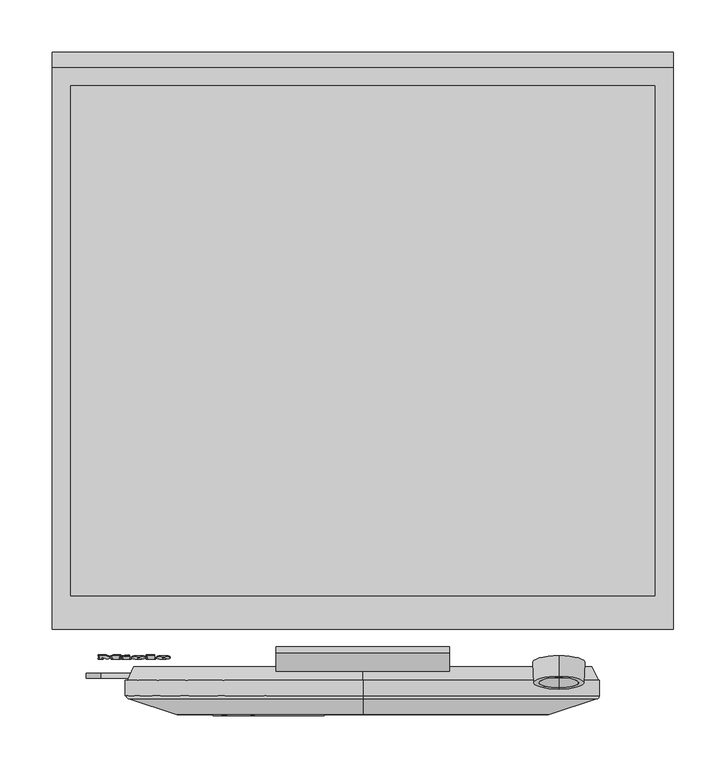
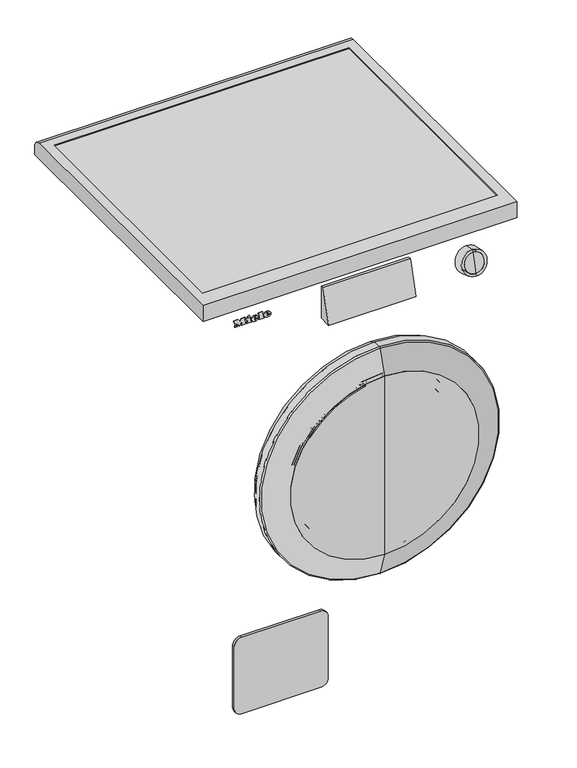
"""IFC4 building model written with IfcOpenShell, lengths in millimetres: proxy geometry, 12389510_NL_WEK375WPS_LW : 11EK3753_NL_12389510_WEK375WPS_LW."""

from ifc_helpers import new_model, si_unit, point, frame, frame_2d, origin, place, context, project, spatial, polyline, circle_curve, ellipse_curve, trimmed, segment, composite_curve, outline, extrude, source, transform, mapped, element, save
from ifc_brep_helpers import plane_surface, cylinder_surface, revolved_surface, extruded_surface, advanced_brep


def specialty_equipment_d4bfd174(model_context):
    return source(origin(), model_context, "Body", "SolidModel", [
        extrude(outline(polyline([(0.0, 0.0), (0.0, -1.8582), (-7.9458, -1.8582), (-11.286, 2.4168), (-14.6148, -1.8582), (-21.5574, -1.8582), (-21.5574, 0.0), (-20.1096, 0.0), (-20.1096, 7.6266), (-21.5574, 7.6266), (-21.5574, 9.5418), (-12.4602, 9.5418), (-12.4602, 7.6266), (-13.8624, 7.6266), (-13.8624, 2.6015777), (-8.7438, 9.5418), (-3.648, 2.7988753), (-3.648, 7.6266), (-5.016, 7.6266), (-5.016, 9.5418), (0.0, 9.5418), (0.0, 7.6266), (-1.3794, 7.6266), (-1.3794, 0.0), (0.0, 0.0)])), frame((-254.0, -578.2806922, 817.2814843), z_axis=(0.0, -0.9659258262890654, 0.2588190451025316), x_axis=(-1.0, 0.0, 0.0)), (0.0, 0.0, 1.0), 1.0),
        extrude(outline(polyline([(0.0, 0.0), (-0.0155448, -4.2740444), (-2.0506341, -4.2637237), (-2.0399312, 0.0), (0.0, 0.0)])), frame((-228.464, -577.9348294, 818.5722618), z_axis=(0.0, -0.9659258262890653, 0.2588190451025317), x_axis=(-0.4247202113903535, 0.23431526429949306, 0.8744764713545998)), (0.0, 0.0, 1.0), 1.0),
        extrude(outline(polyline([(-0.7030818, 3.4401063), (-3.9616202, -3.5057256), (-10.0405132, -0.6538993), (-10.6021632, -1.8511006), (-12.336041, -1.0376764), (-8.5158526, 7.1053568), (-6.7819748, 6.2919326), (-7.3581502, 5.0637692), (-3.1266627, 3.0786269), (-2.5504873, 4.3067903), (-0.7030818, 3.4401063)])), frame((-228.464, -577.9348294, 818.5722618), z_axis=(0.0, -0.9659258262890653, 0.2588190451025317), x_axis=(-0.4247202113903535, 0.23431526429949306, 0.8744764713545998)), (0.0, 0.0, 1.0), 1.0),
        extrude(outline(polyline([(0.0, 0.0), (0.0, -1.8582), (-7.8432, -1.8582), (-7.8432, 7.6266), (-9.2454, 7.6266), (-9.2454, 9.5418), (0.0, 9.5418), (0.0, 7.6266), (-1.368, 7.6266), (-1.368, 0.0), (0.0, 0.0)])), frame((-207.7388, -578.2806922, 817.2814843), z_axis=(0.0, -0.9659258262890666, 0.2588190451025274), x_axis=(-1.0, 0.0, 0.0)), (0.0, 0.0, 1.0), 1.0),
        advanced_brep(
        [(-216.0038, -581.029736, 810.8856165), (-216.0038, -580.7317318, 811.9977835), (-208.3772, -580.7317318, 811.9977835), (-221.6468, -580.7317318, 811.9977835), (-218.5118, -581.7290133, 808.2758781), (-208.571, -581.029736, 810.8856165), (-212.0138, -581.029736, 810.8856165), (-214.727, -581.3601962, 809.6523224), (-216.0038, -580.354063, 813.4072624), (-216.0038, -580.0324545, 814.6075219), (-214.0544, -580.0324545, 814.6075219), (-214.0544, -580.354063, 813.4072624), (-216.0038, -580.0638102, 810.6267974), (-214.727, -580.3942704, 809.3935033), (-212.0138, -580.0638102, 810.6267974), (-208.571, -580.0638102, 810.6267974), (-218.5118, -580.7630875, 808.017059), (-221.6468, -579.765806, 811.7389644), (-208.3772, -579.765806, 811.7389644), (-216.0038, -579.765806, 811.7389644), (-216.0038, -579.3881372, 813.1484434), (-214.0544, -579.3881372, 813.1484434), (-214.0544, -579.0665287, 814.3487028), (-216.0038, -579.0665287, 814.3487028)],
        [
            (0, 1),
            (1, 2),
            (2, 3, ellipse_curve(frame((-215.012, -580.7317318, 811.9977835), z_axis=(0.0, -0.9659258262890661, 0.2588190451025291), x_axis=(-1.0, 0.0, 0.0)), 6.6348, 5.4834)),
            (3, 4, circle_curve(frame((-217.2349378, -580.6314135, 812.3721763), z_axis=(0.0, -0.9659258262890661, 0.2588190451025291), x_axis=(0.0, -0.2588190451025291, -0.9659258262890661)), 4.4288556)),
            (4, 5, circle_curve(frame((-215.1448192, -579.8524717, 815.2792267), z_axis=(0.0, -0.9659258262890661, 0.2588190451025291), x_axis=(0.0, -0.2588190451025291, -0.9659258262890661)), 7.9940516)),
            (5, 6),
            (6, 7, circle_curve(frame((-214.1697412, -580.7553361, 811.909691), z_axis=(0.0, 0.9659258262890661, -0.2588190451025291), x_axis=(0.0, -0.2588190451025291, -0.9659258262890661)), 2.4025208)),
            (7, 0, circle_curve(frame((-214.727, -581.029736, 810.8856165), z_axis=(0.0, 0.9659258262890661, -0.2588190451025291), x_axis=(0.0, -0.2588190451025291, -0.9659258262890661)), 1.2768)),
            (8, 9),
            (9, 10, circle_curve(frame((-215.0291, -580.0324545, 814.6075219), z_axis=(0.0, 0.9659258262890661, -0.2588190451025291), x_axis=(0.0, -0.2588190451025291, -0.9659258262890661)), 0.9747)),
            (10, 11),
            (11, 8),
            (12, 13, circle_curve(frame((-214.727, -580.0638102, 810.6267974), z_axis=(0.0, -0.9659258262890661, 0.2588190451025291), x_axis=(0.0, -0.2588190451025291, -0.9659258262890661)), 1.2768)),
            (13, 14, circle_curve(frame((-214.1697412, -579.7894103, 811.650872), z_axis=(0.0, -0.9659258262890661, 0.2588190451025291), x_axis=(0.0, -0.2588190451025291, -0.9659258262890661)), 2.4025208)),
            (14, 15),
            (15, 16, circle_curve(frame((-215.1448192, -578.8865459, 815.0204076), z_axis=(0.0, 0.9659258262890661, -0.2588190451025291), x_axis=(0.0, -0.2588190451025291, -0.9659258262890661)), 7.9940516)),
            (16, 17, circle_curve(frame((-217.2349378, -579.6654877, 812.1133573), z_axis=(0.0, 0.9659258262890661, -0.2588190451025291), x_axis=(0.0, -0.2588190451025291, -0.9659258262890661)), 4.4288556)),
            (17, 18, ellipse_curve(frame((-215.012, -579.765806, 811.7389644), z_axis=(0.0, 0.9659258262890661, -0.2588190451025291), x_axis=(-1.0, 0.0, 0.0)), 6.6348, 5.4834)),
            (18, 19),
            (19, 12),
            (20, 21),
            (21, 22),
            (22, 23, circle_curve(frame((-215.0291, -579.0665287, 814.3487028), z_axis=(0.0, -0.9659258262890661, 0.2588190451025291), x_axis=(0.0, -0.2588190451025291, -0.9659258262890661)), 0.9747)),
            (23, 20),
            (0, 12),
            (19, 1),
            (18, 2),
            (5, 15),
            (14, 6),
            (17, 3),
            (13, 7),
            (16, 4),
            (8, 20),
            (23, 9),
            (22, 10),
            (21, 11),
        ],
        [
            plane_surface(frame((-216.0038, -580.7317318, 811.9977835), z_axis=(0.0, -0.9659258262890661, 0.2588190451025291), x_axis=(0.0, 0.2588190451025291, 0.9659258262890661))),
            plane_surface(frame((-216.0038, -579.765806, 811.7389644), z_axis=(0.0, 0.9659258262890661, -0.2588190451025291), x_axis=(0.0, -0.2588190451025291, -0.9659258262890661))),
            plane_surface(frame((-216.0038, -581.029736, 810.8856165), z_axis=(1.0, 0.0, 0.0), x_axis=(0.0, 0.9659258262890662, -0.25881904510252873))),
            plane_surface(frame((-216.0038, -580.7317318, 811.9977835), z_axis=(0.0, -0.25881904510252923, -0.9659258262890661), x_axis=(0.0, 0.9659258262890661, -0.25881904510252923))),
            plane_surface(frame((-208.571, -581.029736, 810.8856165), z_axis=(0.0, 0.25881904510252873, 0.9659258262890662), x_axis=(0.0, 0.9659258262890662, -0.25881904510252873))),
            extruded_surface(trimmed(ellipse_curve(frame((-215.012, -578.7998801, 811.4801454), z_axis=(0.0, -0.9659258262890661, 0.2588190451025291), x_axis=(-1.0, 0.0, 0.0)), 6.6348, 5.4834), [point((-208.3772, -578.7998801, 811.4801454))], [point((-221.6468, -578.7998801, 811.4801454))], True, "CARTESIAN"), (0.0, -0.965925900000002, 0.2588190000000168), 1.0000000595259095),
            revolved_surface(polyline([(-214.1697412, -580.4112283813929, 809.3302150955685), (-214.1697412, -581.3771542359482, 809.589034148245)]), (-214.1697412, -579.7894103, 811.650872), (0.0, 0.9659258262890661, -0.2588190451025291)),
            revolved_surface(polyline([(-214.727, -580.3942703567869, 809.393503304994), (-214.727, -581.3601962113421, 809.6523223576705)]), (-214.727, -580.0638102, 810.6267974), (0.0, 0.9659258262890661, -0.2588190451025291)),
            cylinder_surface(frame((-217.2349378, -579.6654877, 812.1133573), z_axis=(0.0, -0.9659258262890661, 0.2588190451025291), x_axis=(0.0, -0.2588190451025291, -0.9659258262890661)), 4.4288556),
            cylinder_surface(frame((-215.1448192, -578.8865459, 815.0204076), z_axis=(0.0, -0.9659258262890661, 0.2588190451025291), x_axis=(0.0, -0.2588190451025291, -0.9659258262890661)), 7.9940516),
            plane_surface(frame((-216.0038, -580.354063, 813.4072624), z_axis=(1.0, 0.0, 0.0), x_axis=(0.0, 0.9659258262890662, -0.25881904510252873))),
            revolved_surface(polyline([(-215.0291, -579.3187996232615, 813.407214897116), (-215.0291, -580.2847254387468, 813.6660339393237)]), (-215.0291, -579.0665287, 814.3487028), (0.0, 0.9659258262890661, -0.2588190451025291)),
            plane_surface(frame((-214.0544, -580.0324545, 814.6075219), z_axis=(-1.0, 0.0, 0.0), x_axis=(0.0, 0.9659258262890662, -0.25881904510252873))),
            plane_surface(frame((-214.0544, -580.354063, 813.4072624), z_axis=(0.0, 0.25881904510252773, 0.9659258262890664), x_axis=(0.0, 0.9659258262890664, -0.25881904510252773))),
        ],
        [
            (0, [[1, 2, 3, 4, 5, 6, 7, 8], [9, 10, 11, 12]]),
            (1, [[13, 14, 15, 16, 17, 18, 19, 20], [21, 22, 23, 24]]),
            (2, [[-1, 25, -20, 26]]),
            (3, [[-2, -26, -19, 27]]),
            (4, [[-6, 28, -15, 29]]),
            (5, [[-3, -27, -18, 30]]),
            (6, [[-7, -29, -14, 31]]),
            (7, [[-8, -31, -13, -25]]),
            (8, [[-4, -30, -17, 32]]),
            (9, [[-5, -32, -16, -28]]),
            (10, [[-9, 33, -24, 34]]),
            (11, [[-10, -34, -23, 35]]),
            (12, [[-11, -35, -22, 36]]),
            (13, [[-12, -36, -21, -33]]),
        ],
    ),
        advanced_brep(
        [(-192.212, -581.029736, 810.8856165), (-192.212, -580.7317318, 811.9977835), (-184.5854, -580.7317318, 811.9977835), (-197.855, -580.7317318, 811.9977835), (-194.72, -581.7290133, 808.2758781), (-184.7792, -581.029736, 810.8856165), (-188.222, -581.029736, 810.8856165), (-190.9352, -581.3601962, 809.6523224), (-192.212, -580.354063, 813.4072624), (-192.212, -580.0324545, 814.6075219), (-190.2626, -580.0324545, 814.6075219), (-190.2626, -580.354063, 813.4072624), (-192.212, -580.0638102, 810.6267974), (-190.9352, -580.3942704, 809.3935033), (-188.222, -580.0638102, 810.6267974), (-184.7792, -580.0638102, 810.6267974), (-194.72, -580.7630875, 808.017059), (-197.855, -579.765806, 811.7389644), (-184.5854, -579.765806, 811.7389644), (-192.212, -579.765806, 811.7389644), (-192.212, -579.3881372, 813.1484434), (-190.2626, -579.3881372, 813.1484434), (-190.2626, -579.0665287, 814.3487028), (-192.212, -579.0665287, 814.3487028)],
        [
            (0, 1),
            (1, 2),
            (2, 3, ellipse_curve(frame((-191.2202, -580.7317318, 811.9977835), z_axis=(0.0, -0.965925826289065, 0.25881904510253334), x_axis=(-1.0, 0.0, 0.0)), 6.6348, 5.4834)),
            (3, 4, circle_curve(frame((-193.4431378, -580.6314135, 812.3721763), z_axis=(0.0, -0.9659258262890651, 0.25881904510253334), x_axis=(0.0, -0.2588190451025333, -0.9659258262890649)), 4.4288556)),
            (4, 5, circle_curve(frame((-191.3530192, -579.8524717, 815.2792267), z_axis=(0.0, -0.9659258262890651, 0.25881904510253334), x_axis=(0.0, -0.2588190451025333, -0.9659258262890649)), 7.9940516)),
            (5, 6),
            (6, 7, circle_curve(frame((-190.3779412, -580.7553361, 811.909691), z_axis=(0.0, 0.9659258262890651, -0.25881904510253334), x_axis=(0.0, -0.2588190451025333, -0.9659258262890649)), 2.4025208)),
            (7, 0, circle_curve(frame((-190.9352, -581.029736, 810.8856165), z_axis=(0.0, 0.9659258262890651, -0.25881904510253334), x_axis=(0.0, -0.2588190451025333, -0.9659258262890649)), 1.2768)),
            (8, 9),
            (9, 10, circle_curve(frame((-191.2373, -580.0324545, 814.6075219), z_axis=(0.0, 0.9659258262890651, -0.25881904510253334), x_axis=(0.0, -0.2588190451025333, -0.9659258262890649)), 0.9747)),
            (10, 11),
            (11, 8),
            (12, 13, circle_curve(frame((-190.9352, -580.0638102, 810.6267974), z_axis=(0.0, -0.9659258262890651, 0.25881904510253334), x_axis=(0.0, -0.2588190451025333, -0.9659258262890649)), 1.2768)),
            (13, 14, circle_curve(frame((-190.3779412, -579.7894103, 811.650872), z_axis=(0.0, -0.9659258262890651, 0.25881904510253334), x_axis=(0.0, -0.2588190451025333, -0.9659258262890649)), 2.4025208)),
            (14, 15),
            (15, 16, circle_curve(frame((-191.3530192, -578.8865459, 815.0204076), z_axis=(0.0, 0.9659258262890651, -0.25881904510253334), x_axis=(0.0, -0.2588190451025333, -0.9659258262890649)), 7.9940516)),
            (16, 17, circle_curve(frame((-193.4431378, -579.6654877, 812.1133573), z_axis=(0.0, 0.9659258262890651, -0.25881904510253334), x_axis=(0.0, -0.2588190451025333, -0.9659258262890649)), 4.4288556)),
            (17, 18, ellipse_curve(frame((-191.2202, -579.765806, 811.7389644), z_axis=(0.0, 0.965925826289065, -0.25881904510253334), x_axis=(-1.0, 0.0, 0.0)), 6.6348, 5.4834)),
            (18, 19),
            (19, 12),
            (20, 21),
            (21, 22),
            (22, 23, circle_curve(frame((-191.2373, -579.0665287, 814.3487028), z_axis=(0.0, -0.9659258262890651, 0.25881904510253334), x_axis=(0.0, -0.2588190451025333, -0.9659258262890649)), 0.9747)),
            (23, 20),
            (0, 12),
            (19, 1),
            (18, 2),
            (5, 15),
            (14, 6),
            (17, 3),
            (13, 7),
            (16, 4),
            (8, 20),
            (23, 9),
            (22, 10),
            (21, 11),
        ],
        [
            plane_surface(frame((-192.212, -580.7317318, 811.9977835), z_axis=(0.0, -0.965925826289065, 0.25881904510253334), x_axis=(0.0, 0.25881904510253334, 0.965925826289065))),
            plane_surface(frame((-192.212, -579.765806, 811.7389644), z_axis=(0.0, 0.965925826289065, -0.25881904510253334), x_axis=(0.0, -0.25881904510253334, -0.965925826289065))),
            plane_surface(frame((-192.212, -581.029736, 810.8856165), z_axis=(1.0, 0.0, 0.0), x_axis=(0.0, 0.9659258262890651, -0.2588190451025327))),
            plane_surface(frame((-192.212, -580.7317318, 811.9977835), z_axis=(0.0, -0.25881904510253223, -0.9659258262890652), x_axis=(0.0, 0.9659258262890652, -0.25881904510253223))),
            plane_surface(frame((-184.7792, -581.029736, 810.8856165), z_axis=(0.0, 0.2588190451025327, 0.9659258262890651), x_axis=(0.0, 0.9659258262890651, -0.2588190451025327))),
            extruded_surface(trimmed(ellipse_curve(frame((-191.2202, -578.7998801, 811.4801454), z_axis=(0.0, -0.965925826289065, 0.25881904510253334), x_axis=(-1.0, 0.0, 0.0)), 6.6348, 5.4834), [point((-184.5854, -578.7998801, 811.4801454))], [point((-197.855, -578.7998801, 811.4801454))], True, "CARTESIAN"), (0.0, -0.965925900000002, 0.2588190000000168), 1.0000000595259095),
            revolved_surface(polyline([(-190.3779412, -580.4112283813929, 809.3302150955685), (-190.3779412, -581.3771542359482, 809.589034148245)]), (-190.3779412, -579.7894103, 811.650872), (0.0, 0.9659258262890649, -0.2588190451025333)),
            revolved_surface(polyline([(-190.9352, -580.3942703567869, 809.393503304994), (-190.9352, -581.3601962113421, 809.6523223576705)]), (-190.9352, -580.0638102, 810.6267974), (0.0, 0.9659258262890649, -0.2588190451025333)),
            cylinder_surface(frame((-193.4431378, -579.6654877, 812.1133573), z_axis=(0.0, -0.9659258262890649, 0.2588190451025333), x_axis=(0.0, -0.2588190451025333, -0.9659258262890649)), 4.4288556),
            cylinder_surface(frame((-191.3530192, -578.8865459, 815.0204076), z_axis=(0.0, -0.9659258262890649, 0.2588190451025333), x_axis=(0.0, -0.2588190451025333, -0.9659258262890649)), 7.9940516),
            plane_surface(frame((-192.212, -580.354063, 813.4072624), z_axis=(1.0, 0.0, 0.0), x_axis=(0.0, 0.9659258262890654, -0.25881904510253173))),
            revolved_surface(polyline([(-191.2373, -579.3187996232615, 813.407214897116), (-191.2373, -580.2847254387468, 813.6660339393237)]), (-191.2373, -579.0665287, 814.3487028), (0.0, 0.9659258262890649, -0.2588190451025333)),
            plane_surface(frame((-190.2626, -580.0324545, 814.6075219), z_axis=(-1.0, 0.0, 0.0), x_axis=(0.0, 0.9659258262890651, -0.2588190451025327))),
            plane_surface(frame((-190.2626, -580.354063, 813.4072624), z_axis=(0.0, 0.2588190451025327, 0.9659258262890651), x_axis=(0.0, 0.9659258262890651, -0.2588190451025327))),
        ],
        [
            (0, [[1, 2, 3, 4, 5, 6, 7, 8], [9, 10, 11, 12]]),
            (1, [[13, 14, 15, 16, 17, 18, 19, 20], [21, 22, 23, 24]]),
            (2, [[-1, 25, -20, 26]]),
            (3, [[-2, -26, -19, 27]]),
            (4, [[-6, 28, -15, 29]]),
            (5, [[-3, -27, -18, 30]]),
            (6, [[-7, -29, -14, 31]]),
            (7, [[-8, -31, -13, -25]]),
            (8, [[-4, -30, -17, 32]]),
            (9, [[-5, -32, -16, -28]]),
            (10, [[-9, 33, -24, 34]]),
            (11, [[-10, -34, -23, 35]]),
            (12, [[-11, -35, -22, 36]]),
            (13, [[-12, -36, -21, -33]]),
        ],
    ),
        extrude(outline(composite_curve([segment(trimmed(circle_curve(frame_2d((475.0, 0.0)), 179.0077488), [point((650.0572384, -37.3996979))], [point((581.8669772, -143.6078804))], False, "CARTESIAN"), True, "CONTINUOUS"), segment(polyline([(581.8669772, -143.6078804), (580.6729844, -142.0033925)]), True, "CONTINUOUS"), segment(trimmed(circle_curve(frame_2d((475.0, 0.0)), 177.0077488), [point((580.6729844, -142.0033925))], [point((648.1013763, -36.9818423))], True, "CARTESIAN"), True, "CONTINUOUS"), segment(polyline([(648.1013763, -36.9818423), (650.0572384, -37.3996979)]), True, "CONTINUOUS")], self_intersect=False)), frame((0.0, -636.0, 0.0), z_axis=(0.0, 1.0, 0.0), x_axis=(0.0, 0.0, 1.0)), (0.0, 0.0, 1.0), 1.0),
        advanced_brep(
        [(0.0, -610.8709778, 313.0), (0.0, -610.8709778, 637.0), (0.0, -592.0, 637.0), (0.0, -592.0, 313.0), (0.0, -628.93239, 652.7005461), (0.0, -628.93239, 297.2994539), (0.0, -630.9005671, 650.4364173), (0.0, -630.9005671, 299.5635827), (0.0, -592.0, 326.0), (0.0, -592.0, 624.0), (0.0, -589.0, 326.0), (0.0, -589.0, 624.0), (0.0, -589.0, 475.0), (0.0, -635.0, 296.0), (0.0, -635.0, 654.0), (0.0, -635.0, 475.0)],
        [
            (0, 1, circle_curve(frame((0.0, -610.8709778, 475.0), z_axis=(0.0, 1.0, 0.0), x_axis=(0.0, 0.0, 1.0)), 162.0)),
            (1, 2),
            (2, 3, circle_curve(frame((0.0, -592.0, 475.0), z_axis=(0.0, -1.0, 0.0), x_axis=(0.0, 0.0, 1.0)), 162.0)),
            (3, 0),
            (4, 5, circle_curve(frame((0.0, -628.93239, 475.0), z_axis=(0.0, 1.0, 0.0), x_axis=(0.0, 0.0, 1.0)), 177.7005461)),
            (5, 0),
            (0, 1, circle_curve(frame((0.0, -610.8709778, 475.0), z_axis=(0.0, -1.0, 0.0), x_axis=(0.0, 0.0, 1.0)), 162.0)),
            (1, 4),
            (6, 7, circle_curve(frame((0.0, -630.9005671, 475.0), z_axis=(0.0, 1.0, 0.0), x_axis=(0.0, 0.0, 1.0)), 175.4364173)),
            (7, 5),
            (4, 6),
            (2, 3, circle_curve(frame((0.0, -592.0, 475.0), z_axis=(0.0, 1.0, 0.0), x_axis=(0.0, 0.0, 1.0)), 162.0)),
            (3, 8),
            (8, 9, circle_curve(frame((0.0, -592.0, 475.0), z_axis=(0.0, -1.0, 0.0), x_axis=(0.0, 0.0, 1.0)), 149.0)),
            (9, 2),
            (10, 11, circle_curve(frame((0.0, -589.0, 475.0), z_axis=(0.0, 1.0, 0.0), x_axis=(0.0, 0.0, 1.0)), 149.0)),
            (11, 12),
            (12, 10),
            (8, 9, circle_curve(frame((0.0, -592.0, 475.0), z_axis=(0.0, 1.0, 0.0), x_axis=(0.0, 0.0, 1.0)), 149.0)),
            (9, 11),
            (10, 8),
            (13, 14, circle_curve(frame((0.0, -635.0, 475.0), z_axis=(0.0, 1.0, 0.0), x_axis=(0.0, 0.0, 1.0)), 179.0)),
            (14, 6),
            (6, 7, circle_curve(frame((0.0, -630.9005671, 475.0), z_axis=(0.0, -1.0, 0.0), x_axis=(0.0, 0.0, 1.0)), 175.4364173)),
            (7, 13),
            (14, 13, circle_curve(frame((0.0, -635.0, 475.0), z_axis=(0.0, 1.0, 0.0), x_axis=(0.0, 0.0, 1.0)), 179.0)),
            (15, 14),
            (13, 15),
            (11, 10, circle_curve(frame((0.0, -589.0, 475.0), z_axis=(0.0, 1.0, 0.0), x_axis=(0.0, 0.0, 1.0)), 149.0)),
            (5, 4, circle_curve(frame((0.0, -628.93239, 475.0), z_axis=(0.0, 1.0, 0.0), x_axis=(0.0, 0.0, 1.0)), 177.7005461)),
        ],
        [
            cylinder_surface(frame((0.0, -2342.7556811, 475.0), z_axis=(0.0, -1.0, 0.0), x_axis=(0.0, 0.0, 1.0)), 162.0),
            revolved_surface(polyline([(0.0, -610.8709778, 637.0), (0.0, -628.93239, 652.7005461)]), (0.0, -2342.7556811, 475.0), (0.0, -1.0, 0.0)),
            revolved_surface(polyline([(0.0, -628.93239, 652.7005461), (0.0, -630.9005671, 650.4364173)]), (0.0, -2342.7556811, 475.0), (0.0, -1.0, 0.0)),
            plane_surface(frame((0.0, -592.0, 475.0), z_axis=(0.0, 1.0, 0.0), x_axis=(0.0, 0.0, 1.0))),
            plane_surface(frame((0.0, -589.0, 475.0), z_axis=(0.0, 1.0, 0.0), x_axis=(0.0, 0.0, 1.0))),
            cylinder_surface(frame((0.0, -2342.7556811, 475.0), z_axis=(0.0, -1.0, 0.0), x_axis=(0.0, 0.0, 1.0)), 149.0),
            revolved_surface(polyline([(0.0, -630.9005671, 650.4364173), (0.0, -635.0, 654.0)]), (0.0, -2342.7556811, 475.0), (0.0, -1.0, 0.0)),
            plane_surface(frame((0.0, -635.0, 475.0), z_axis=(0.0, -1.0, 0.0), x_axis=(0.0, 0.0, 1.0))),
        ],
        [
            (0, [[1, 2, 3, 4]]),
            (1, [[5, 6, 7, 8]]),
            (2, [[9, 10, -5, 11]]),
            (3, [[12, 13, 14, 15]]),
            (4, [[16, 17, 18]]),
            (5, [[19, 20, -16, 21]]),
            (6, [[22, 23, 24, 25]]),
            (6, [[26, -25, -9, -23]]),
            (7, [[27, -22, 28]]),
            (7, [[-28, -26, -27]]),
            (4, [[29, -18, -17]]),
            (5, [[-14, -21, -29, -20]]),
            (3, [[-3, -15, -19, -13]]),
            (0, [[-7, -4, -12, -2]]),
            (1, [[30, -8, -1, -6]]),
            (2, [[-24, -11, -30, -10]]),
        ],
    ),
        advanced_brep(
        [(0.0, -602.0, 313.0), (0.0, -602.0, 637.0), (0.0, -602.0, 702.0), (0.0, -602.0, 248.0), (0.0, -592.0, 326.0), (0.0, -592.0, 624.0), (0.0, -592.0, 637.0), (0.0, -592.0, 313.0), (0.0, -589.0, 326.0), (0.0, -589.0, 624.0), (0.0, -589.0, 254.0), (0.0, -589.0, 696.0)],
        [
            (0, 1, circle_curve(frame((0.0, -602.0, 475.0), z_axis=(0.0, 1.0, 0.0), x_axis=(0.0, 0.0, 1.0)), 162.0)),
            (1, 2),
            (2, 3, circle_curve(frame((0.0, -602.0, 475.0), z_axis=(0.0, -1.0, 0.0), x_axis=(0.0, 0.0, 1.0)), 227.0)),
            (3, 0),
            (4, 5, circle_curve(frame((0.0, -592.0, 475.0), z_axis=(0.0, 1.0, 0.0), x_axis=(0.0, 0.0, 1.0)), 149.0)),
            (5, 6),
            (6, 7, circle_curve(frame((0.0, -592.0, 475.0), z_axis=(0.0, -1.0, 0.0), x_axis=(0.0, 0.0, 1.0)), 162.0)),
            (7, 4),
            (5, 4, circle_curve(frame((0.0, -592.0, 475.0), z_axis=(0.0, 1.0, 0.0), x_axis=(0.0, 0.0, 1.0)), 149.0)),
            (7, 6, circle_curve(frame((0.0, -592.0, 475.0), z_axis=(0.0, -1.0, 0.0), x_axis=(0.0, 0.0, 1.0)), 162.0)),
            (8, 9, circle_curve(frame((0.0, -589.0, 475.0), z_axis=(0.0, 1.0, 0.0), x_axis=(0.0, 0.0, 1.0)), 149.0)),
            (9, 5),
            (4, 8),
            (2, 3, circle_curve(frame((0.0, -602.0, 475.0), z_axis=(0.0, 1.0, 0.0), x_axis=(0.0, 0.0, 1.0)), 227.0)),
            (3, 10),
            (10, 11, circle_curve(frame((0.0, -589.0, 475.0), z_axis=(0.0, -1.0, 0.0), x_axis=(0.0, 0.0, 1.0)), 221.0)),
            (11, 2),
            (10, 11, circle_curve(frame((0.0, -589.0, 475.0), z_axis=(0.0, 1.0, 0.0), x_axis=(0.0, 0.0, 1.0)), 221.0)),
            (11, 9),
            (8, 10),
            (8, 9, circle_curve(frame((0.0, -589.0, 475.0), z_axis=(0.0, -1.0, 0.0), x_axis=(0.0, 0.0, 1.0)), 149.0)),
            (1, 0, circle_curve(frame((0.0, -602.0, 475.0), z_axis=(0.0, 1.0, 0.0), x_axis=(0.0, 0.0, 1.0)), 162.0)),
            (6, 1),
            (0, 7),
        ],
        [
            plane_surface(frame((0.0, -602.0, 475.0), z_axis=(0.0, -1.0, 0.0), x_axis=(0.0, 0.0, 1.0))),
            plane_surface(frame((0.0, -592.0, 475.0), z_axis=(0.0, -1.0, 0.0), x_axis=(0.0, 0.0, 1.0))),
            revolved_surface(polyline([(0.0, -592.0, 624.0), (0.0, -589.0, 624.0)]), (0.0, -2342.7556811, 475.0), (0.0, -1.0, 0.0)),
            revolved_surface(polyline([(0.0, -589.0, 696.0), (0.0, -602.0, 702.0)]), (0.0, -2342.7556811, 475.0), (0.0, -1.0, 0.0)),
            plane_surface(frame((0.0, -589.0, 475.0), z_axis=(0.0, 1.0, 0.0), x_axis=(0.0, 0.0, 1.0))),
            revolved_surface(polyline([(0.0, -602.0, 637.0), (0.0, -592.0, 637.0)]), (0.0, -2342.7556811, 475.0), (0.0, -1.0, 0.0)),
        ],
        [
            (0, [[1, 2, 3, 4]]),
            (1, [[5, 6, 7, 8]]),
            (1, [[9, -8, 10, -6]]),
            (2, [[11, 12, -5, 13]]),
            (3, [[14, 15, 16, 17]]),
            (4, [[18, 19, -11, 20]]),
            (4, [[-16, -20, 21, -19]]),
            (3, [[-3, -17, -18, -15]]),
            (0, [[22, -4, -14, -2]]),
            (5, [[-7, 23, -1, 24]]),
            (5, [[-10, -24, -22, -23]]),
            (2, [[-21, -13, -9, -12]]),
        ],
    ),
        advanced_brep(
        [(0.0, -602.0, 313.0), (0.0, -602.0, 637.0), (0.0, -610.8709778, 637.0), (0.0, -610.8709778, 313.0), (0.0, -602.0, 310.0), (0.0, -602.0, 640.0), (0.0, -609.7493238, 310.0), (0.0, -609.7493238, 640.0), (0.0, -628.93239, 297.2994539), (0.0, -628.93239, 652.7005461), (0.0, -626.9642129, 654.9646748), (0.0, -626.9642129, 295.0353252)],
        [
            (0, 1, circle_curve(frame((0.0, -602.0, 475.0), z_axis=(0.0, 1.0, 0.0), x_axis=(0.0, 0.0, 1.0)), 162.0)),
            (1, 2),
            (2, 3, circle_curve(frame((0.0, -610.8709778, 475.0), z_axis=(0.0, -1.0, 0.0), x_axis=(0.0, 0.0, 1.0)), 162.0)),
            (3, 0),
            (4, 5, circle_curve(frame((0.0, -602.0, 475.0), z_axis=(0.0, 1.0, 0.0), x_axis=(0.0, 0.0, 1.0)), 165.0)),
            (5, 1),
            (0, 4),
            (6, 7, circle_curve(frame((0.0, -609.7493238, 475.0), z_axis=(0.0, 1.0, 0.0), x_axis=(0.0, 0.0, 1.0)), 165.0)),
            (7, 5),
            (4, 6),
            (2, 3, circle_curve(frame((0.0, -610.8709778, 475.0), z_axis=(0.0, 1.0, 0.0), x_axis=(0.0, 0.0, 1.0)), 162.0)),
            (3, 8),
            (8, 9, circle_curve(frame((0.0, -628.93239, 475.0), z_axis=(0.0, -1.0, 0.0), x_axis=(0.0, 0.0, 1.0)), 177.7005461)),
            (9, 2),
            (8, 9, circle_curve(frame((0.0, -628.93239, 475.0), z_axis=(0.0, 1.0, 0.0), x_axis=(0.0, 0.0, 1.0)), 177.7005461)),
            (9, 10),
            (10, 11, circle_curve(frame((0.0, -626.9642129, 475.0), z_axis=(0.0, -1.0, 0.0), x_axis=(0.0, 0.0, 1.0)), 179.9646748)),
            (11, 8),
            (11, 10, circle_curve(frame((0.0, -626.9642129, 475.0), z_axis=(0.0, -1.0, 0.0), x_axis=(0.0, 0.0, 1.0)), 179.9646748)),
            (1, 0, circle_curve(frame((0.0, -602.0, 475.0), z_axis=(0.0, 1.0, 0.0), x_axis=(0.0, 0.0, 1.0)), 162.0)),
            (10, 7),
            (6, 11),
            (6, 7, circle_curve(frame((0.0, -609.7493238, 475.0), z_axis=(0.0, -1.0, 0.0), x_axis=(0.0, 0.0, 1.0)), 165.0)),
            (5, 4, circle_curve(frame((0.0, -602.0, 475.0), z_axis=(0.0, 1.0, 0.0), x_axis=(0.0, 0.0, 1.0)), 165.0)),
        ],
        [
            revolved_surface(polyline([(0.0, -610.8709778, 637.0), (0.0, -602.0, 637.0)]), (0.0, -2342.7556811, 475.0), (0.0, -1.0, 0.0)),
            plane_surface(frame((0.0, -602.0, 475.0), z_axis=(0.0, 1.0, 0.0), x_axis=(0.0, 0.0, 1.0))),
            cylinder_surface(frame((0.0, -2342.7556811, 475.0), z_axis=(0.0, -1.0, 0.0), x_axis=(0.0, 0.0, 1.0)), 165.0),
            revolved_surface(polyline([(0.0, -628.93239, 652.7005461), (0.0, -610.8709778, 637.0)]), (0.0, -2342.7556811, 475.0), (0.0, -1.0, 0.0)),
            revolved_surface(polyline([(0.0, -626.9642129, 654.9646748), (0.0, -628.93239, 652.7005461)]), (0.0, -2342.7556811, 475.0), (0.0, -1.0, 0.0)),
            revolved_surface(polyline([(0.0, -609.7493238, 640.0), (0.0, -626.9642129, 654.9646748)]), (0.0, -2342.7556811, 475.0), (0.0, -1.0, 0.0)),
        ],
        [
            (0, [[1, 2, 3, 4]]),
            (1, [[5, 6, -1, 7]]),
            (2, [[8, 9, -5, 10]]),
            (3, [[11, 12, 13, 14]]),
            (4, [[15, 16, 17, 18]]),
            (4, [[-13, -18, 19, -16]]),
            (3, [[-3, -14, -15, -12]]),
            (0, [[20, -4, -11, -2]]),
            (5, [[-17, 21, -8, 22]]),
            (5, [[-19, -22, 23, -21]]),
            (1, [[24, -7, -20, -6]]),
            (2, [[-23, -10, -24, -9]]),
        ],
    ),
        advanced_brep(
        [(0.0, -626.9642129, 295.0353252), (0.0, -626.9642129, 654.9646748), (0.0, -630.9005671, 650.4364173), (0.0, -630.9005671, 299.5635827), (0.0, -602.0, 247.0), (0.0, -602.0, 703.0), (0.0, -602.0, 640.0), (0.0, -602.0, 310.0), (0.0, -609.7493238, 640.0), (0.0, -609.7493238, 310.0), (0.0, -635.0, 296.0), (0.0, -635.0, 654.0), (0.0, -616.8993073, 247.0), (0.0, -616.8993073, 703.0), (0.0, -619.7524768, 249.072949), (0.0, -619.7524768, 700.927051)],
        [
            (0, 1, circle_curve(frame((0.0, -626.9642129, 475.0), z_axis=(0.0, 1.0, 0.0), x_axis=(0.0, 0.0, 1.0)), 179.9646748)),
            (1, 2),
            (2, 3, circle_curve(frame((0.0, -630.9005671, 475.0), z_axis=(0.0, -1.0, 0.0), x_axis=(0.0, 0.0, 1.0)), 175.4364173)),
            (3, 0),
            (4, 5, circle_curve(frame((0.0, -602.0, 475.0), z_axis=(0.0, 1.0, 0.0), x_axis=(0.0, 0.0, 1.0)), 228.0)),
            (5, 6),
            (6, 7, circle_curve(frame((0.0, -602.0, 475.0), z_axis=(0.0, -1.0, 0.0), x_axis=(0.0, 0.0, 1.0)), 165.0)),
            (7, 4),
            (6, 8),
            (8, 9, circle_curve(frame((0.0, -609.7493238, 475.0), z_axis=(0.0, -1.0, 0.0), x_axis=(0.0, 0.0, 1.0)), 165.0)),
            (9, 7),
            (2, 3, circle_curve(frame((0.0, -630.9005671, 475.0), z_axis=(0.0, 1.0, 0.0), x_axis=(0.0, 0.0, 1.0)), 175.4364173)),
            (3, 10),
            (10, 11, circle_curve(frame((0.0, -635.0, 475.0), z_axis=(0.0, -1.0, 0.0), x_axis=(0.0, 0.0, 1.0)), 179.0)),
            (11, 2),
            (12, 13, circle_curve(frame((0.0, -616.8993073, 475.0), z_axis=(0.0, 1.0, 0.0), x_axis=(0.0, 0.0, 1.0)), 228.0)),
            (13, 5),
            (4, 12),
            (13, 12, circle_curve(frame((0.0, -616.8993073, 475.0), z_axis=(0.0, 1.0, 0.0), x_axis=(0.0, 0.0, 1.0)), 228.0)),
            (4, 5, circle_curve(frame((0.0, -602.0, 475.0), z_axis=(0.0, -1.0, 0.0), x_axis=(0.0, 0.0, 1.0)), 228.0)),
            (14, 15, circle_curve(frame((0.0, -619.7524768, 475.0), z_axis=(0.0, 1.0, 0.0), x_axis=(0.0, 0.0, 1.0)), 225.927051)),
            (15, 13, circle_curve(frame((0.0, -616.8993073, 700.0), z_axis=(-1.0, 0.0, 0.0), x_axis=(0.0, 1.0, 0.0)), 3.0)),
            (12, 14, circle_curve(frame((0.0, -616.8993073, 250.0), z_axis=(-1.0, 0.0, 0.0), x_axis=(0.0, 1.0, 0.0)), 3.0)),
            (15, 14, circle_curve(frame((0.0, -619.7524768, 475.0), z_axis=(0.0, 1.0, 0.0), x_axis=(0.0, 0.0, 1.0)), 225.927051)),
            (10, 11, circle_curve(frame((0.0, -635.0, 475.0), z_axis=(0.0, 1.0, 0.0), x_axis=(0.0, 0.0, 1.0)), 179.0)),
            (11, 15),
            (14, 10),
            (1, 0, circle_curve(frame((0.0, -626.9642129, 475.0), z_axis=(0.0, 1.0, 0.0), x_axis=(0.0, 0.0, 1.0)), 179.9646748)),
            (8, 1),
            (0, 9),
            (8, 9, circle_curve(frame((0.0, -609.7493238, 475.0), z_axis=(0.0, 1.0, 0.0), x_axis=(0.0, 0.0, 1.0)), 165.0)),
            (7, 6, circle_curve(frame((0.0, -602.0, 475.0), z_axis=(0.0, -1.0, 0.0), x_axis=(0.0, 0.0, 1.0)), 165.0)),
        ],
        [
            revolved_surface(polyline([(0.0, -630.9005671, 650.4364173), (0.0, -626.9642129, 654.9646748)]), (0.0, -2342.7556811, 475.0), (0.0, -1.0, 0.0)),
            plane_surface(frame((0.0, -602.0, 475.0), z_axis=(0.0, 1.0, 0.0), x_axis=(0.0, 0.0, 1.0))),
            revolved_surface(polyline([(0.0, -609.7493238, 640.0), (0.0, -602.0, 640.0)]), (0.0, -2342.7556811, 475.0), (0.0, -1.0, 0.0)),
            revolved_surface(polyline([(0.0, -635.0, 654.0), (0.0, -630.9005671, 650.4364173)]), (0.0, -2342.7556811, 475.0), (0.0, -1.0, 0.0)),
            cylinder_surface(frame((0.0, -2342.7556811, 475.0), z_axis=(0.0, -1.0, 0.0), x_axis=(0.0, 0.0, 1.0)), 228.0),
            revolved_surface(trimmed(ellipse_curve(frame((0.0, -616.8993073, 700.0), z_axis=(1.0, 0.0, 0.0), x_axis=(0.0, 1.0, 0.0)), 3.0, 3.0), [point((0.0, -616.8993073, 703.0))], [point((0.0, -619.7524768, 700.927051))], True, "CARTESIAN"), (0.0, -2342.7556811, 475.0), (0.0, -1.0, 0.0)),
            revolved_surface(polyline([(0.0, -619.7524768, 700.927051), (0.0, -635.0, 654.0)]), (0.0, -2342.7556811, 475.0), (0.0, -1.0, 0.0)),
            revolved_surface(polyline([(0.0, -626.9642129, 654.9646748), (0.0, -609.7493238, 640.0)]), (0.0, -2342.7556811, 475.0), (0.0, -1.0, 0.0)),
        ],
        [
            (0, [[1, 2, 3, 4]]),
            (1, [[5, 6, 7, 8]]),
            (2, [[-7, 9, 10, 11]]),
            (3, [[12, 13, 14, 15]]),
            (4, [[16, 17, -5, 18]]),
            (4, [[19, -18, 20, -17]]),
            (5, [[21, 22, -16, 23]]),
            (5, [[24, -23, -19, -22]]),
            (6, [[25, 26, -21, 27]]),
            (6, [[-14, -27, -24, -26]]),
            (3, [[-3, -15, -25, -13]]),
            (0, [[28, -4, -12, -2]]),
            (7, [[-10, 29, -1, 30]]),
            (7, [[31, -30, -28, -29]]),
            (1, [[-20, -8, 32, -6]]),
            (2, [[-32, -11, -31, -9]]),
        ],
    ),
        advanced_brep(
        [(188.0, -610.51771, 774.0406758), (188.0, -598.119323, 820.312086), (188.0, -578.5295239, 816.1481457), (188.0, -591.4704761, 767.8518543), (188.0, -609.2360784, 778.8237902), (188.0, -599.4009547, 815.5289716), (188.0, -589.9175619, 773.6474093), (188.0, -580.0824381, 810.3525907)],
        [
            (0, 1, circle_curve(frame((188.0, -604.3185165, 797.1763809), z_axis=(0.0, 0.9659258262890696, -0.2588190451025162), x_axis=(0.0, 0.25881904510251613, 0.9659258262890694)), 23.9518444)),
            (1, 2),
            (2, 3, circle_curve(frame((188.0, -585.0, 792.0), z_axis=(0.0, -0.9659258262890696, 0.2588190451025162), x_axis=(0.0, 0.25881904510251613, 0.9659258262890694)), 25.0)),
            (3, 0),
            (1, 0, circle_curve(frame((188.0, -604.3185165, 797.1763809), z_axis=(0.0, 0.9659258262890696, -0.2588190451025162), x_axis=(0.0, 0.25881904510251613, 0.9659258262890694)), 23.9518444)),
            (3, 2, circle_curve(frame((188.0, -585.0, 792.0), z_axis=(0.0, -0.9659258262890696, 0.2588190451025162), x_axis=(0.0, 0.25881904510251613, 0.9659258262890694)), 25.0)),
            (4, 5, circle_curve(frame((188.0, -604.3185165, 797.1763809), z_axis=(0.0, 0.9659258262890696, -0.2588190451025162), x_axis=(0.0, 0.25881904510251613, 0.9659258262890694)), 19.0)),
            (5, 1),
            (0, 4),
            (5, 4, circle_curve(frame((188.0, -604.3185165, 797.1763809), z_axis=(0.0, 0.9659258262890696, -0.2588190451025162), x_axis=(0.0, 0.25881904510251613, 0.9659258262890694)), 19.0)),
            (6, 7, circle_curve(frame((188.0, -585.0, 792.0), z_axis=(0.0, 0.9659258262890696, -0.2588190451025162), x_axis=(0.0, 0.25881904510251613, 0.9659258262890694)), 19.0)),
            (7, 5),
            (4, 6),
            (7, 6, circle_curve(frame((188.0, -585.0, 792.0), z_axis=(0.0, 0.9659258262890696, -0.2588190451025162), x_axis=(0.0, 0.25881904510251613, 0.9659258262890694)), 19.0)),
            (2, 7),
            (6, 3),
        ],
        [
            revolved_surface(polyline([(188.0, -578.5295239, 816.1481457), (188.0, -598.119323, 820.312086)]), (188.0, -585.0, 792.0), (0.0, -0.9659258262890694, 0.25881904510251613)),
            plane_surface(frame((188.0, -604.3185165, 797.1763809), z_axis=(0.0, -0.9659258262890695, 0.2588190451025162), x_axis=(0.0, 0.2588190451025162, 0.9659258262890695))),
            revolved_surface(polyline([(188.0, -599.4009546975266, 815.5289716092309), (188.0, -580.0824381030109, 810.3525906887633)]), (188.0, -585.0, 792.0), (0.0, -0.9659258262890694, 0.25881904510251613)),
            plane_surface(frame((188.0, -585.0, 792.0), z_axis=(0.0, 0.9659258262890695, -0.2588190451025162), x_axis=(0.0, 0.2588190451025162, 0.9659258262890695))),
        ],
        [
            (0, [[1, 2, 3, 4]]),
            (0, [[5, -4, 6, -2]]),
            (1, [[7, 8, -1, 9]]),
            (1, [[10, -9, -5, -8]]),
            (2, [[11, 12, -7, 13]]),
            (2, [[14, -13, -10, -12]]),
            (3, [[-3, 15, -11, 16]]),
            (3, [[-6, -16, -14, -15]]),
        ],
    ),
        advanced_brep(
        [(188.0, -589.9175619, 773.6474093), (188.0, -580.0824381, 810.3525907), (188.0, -585.0, 792.0), (188.0, -609.2360784, 778.8237902), (188.0, -599.4009547, 815.5289716), (188.0, -604.3185165, 797.1763809)],
        [
            (0, 1, circle_curve(frame((188.0, -585.0, 792.0), z_axis=(0.0, 0.9659258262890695, -0.2588190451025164), x_axis=(0.0, 0.2588190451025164, 0.9659258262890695)), 19.0)),
            (1, 2),
            (2, 0),
            (1, 0, circle_curve(frame((188.0, -585.0, 792.0), z_axis=(0.0, 0.9659258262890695, -0.2588190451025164), x_axis=(0.0, 0.2588190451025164, 0.9659258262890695)), 19.0)),
            (3, 4, circle_curve(frame((188.0, -604.3185165, 797.1763809), z_axis=(0.0, 0.9659258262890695, -0.2588190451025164), x_axis=(0.0, 0.2588190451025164, 0.9659258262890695)), 19.0)),
            (4, 1),
            (0, 3),
            (4, 3, circle_curve(frame((188.0, -604.3185165, 797.1763809), z_axis=(0.0, 0.9659258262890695, -0.2588190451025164), x_axis=(0.0, 0.2588190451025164, 0.9659258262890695)), 19.0)),
            (5, 4),
            (3, 5),
        ],
        [
            plane_surface(frame((188.0, -585.0, 792.0), z_axis=(0.0, 0.9659258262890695, -0.2588190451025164), x_axis=(0.0, 0.2588190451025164, 0.9659258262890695))),
            cylinder_surface(frame((188.0, -585.0, 792.0), z_axis=(0.0, -0.9659258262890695, 0.2588190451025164), x_axis=(0.0, 0.2588190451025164, 0.9659258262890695)), 19.0),
            plane_surface(frame((188.0, -604.3185165, 797.1763809), z_axis=(0.0, -0.9659258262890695, 0.2588190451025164), x_axis=(0.0, 0.2588190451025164, 0.9659258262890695))),
        ],
        [
            (0, [[1, 2, 3]]),
            (0, [[4, -3, -2]]),
            (1, [[5, 6, -1, 7]]),
            (1, [[8, -7, -4, -6]]),
            (2, [[9, -5, 10]]),
            (2, [[-10, -8, -9]]),
        ],
    ),
        advanced_brep(
        [(280.0, -32.0, 848.0), (-280.0, -32.0, 848.0), (-280.0, -521.0, 848.0), (280.0, -521.0, 848.0), (280.0, -32.0, 850.0), (-280.0, -32.0, 850.0), (-280.0, -521.0, 850.0), (280.0, -521.0, 850.0), (298.0, -14.5, 850.0), (298.0, -553.0, 850.0), (298.0, -553.0, 818.0), (298.0, 0.0, 818.0), (298.0, 0.0, 835.5), (-298.0, -14.5, 850.0), (-298.0, 0.0, 835.5), (-298.0, 0.0, 818.0), (-298.0, -553.0, 818.0), (-298.0, -553.0, 850.0)],
        [
            (0, 1),
            (1, 2),
            (2, 3),
            (3, 0),
            (0, 4),
            (4, 5),
            (5, 1),
            (5, 6),
            (6, 2),
            (6, 7),
            (7, 3),
            (7, 4),
            (8, 9),
            (9, 10),
            (10, 11),
            (11, 12),
            (12, 8, circle_curve(frame((298.0, -14.5, 835.5), z_axis=(1.0, 0.0, 0.0), x_axis=(0.0, 0.0, -1.0)), 14.5)),
            (13, 14, circle_curve(frame((-298.0, -14.5, 835.5), z_axis=(-1.0, 0.0, 0.0), x_axis=(0.0, 0.0, -1.0)), 14.5)),
            (14, 15),
            (15, 16),
            (16, 17),
            (17, 13),
            (12, 14),
            (13, 8),
            (11, 15),
            (10, 16),
            (9, 17),
        ],
        [
            plane_surface(frame((-179.0425004, -32.0, 848.0), z_axis=(0.0, 0.0, 1.0), x_axis=(1.0, 0.0, 0.0))),
            plane_surface(frame((280.0, -32.0, 850.0), z_axis=(0.0, -1.0, 0.0), x_axis=(0.0, 0.0, -1.0))),
            plane_surface(frame((-280.0, -32.0, 850.0), z_axis=(1.0, 0.0, 0.0), x_axis=(0.0, 0.0, -1.0))),
            plane_surface(frame((-280.0, -521.0, 850.0), z_axis=(0.0, 1.0, 0.0), x_axis=(0.0, 0.0, -1.0))),
            plane_surface(frame((280.0, -521.0, 850.0), z_axis=(-1.0, 0.0, 0.0), x_axis=(0.0, 0.0, -1.0))),
            plane_surface(frame((298.0, -14.5, 821.0), z_axis=(1.0, 0.0, 0.0), x_axis=(0.0, 1.0, 0.0))),
            plane_surface(frame((-298.0, -14.5, 821.0), z_axis=(-1.0, 0.0, 0.0), x_axis=(0.0, -1.0, 0.0))),
            cylinder_surface(frame((298.0, -14.5, 835.5), z_axis=(-1.0, 0.0, 0.0), x_axis=(0.0, 0.0, -1.0)), 14.5),
            plane_surface(frame((-298.0, 0.0, 835.5), z_axis=(0.0, 1.0, 0.0), x_axis=(1.0, 0.0, 0.0))),
            plane_surface(frame((-298.0, 0.0, 818.0), z_axis=(0.0, 0.0, -1.0), x_axis=(1.0, 0.0, 0.0))),
            plane_surface(frame((-298.0, -553.0, 818.0), z_axis=(0.0, -1.0, 0.0), x_axis=(1.0, 0.0, 0.0))),
            plane_surface(frame((-298.0, -553.0, 850.0), z_axis=(0.0, 0.0, 1.0), x_axis=(1.0, 0.0, 0.0))),
        ],
        [
            (0, [[1, 2, 3, 4]]),
            (1, [[-1, 5, 6, 7]]),
            (2, [[-2, -7, 8, 9]]),
            (3, [[-3, -9, 10, 11]]),
            (4, [[-4, -11, 12, -5]]),
            (5, [[13, 14, 15, 16, 17]]),
            (6, [[18, 19, 20, 21, 22]]),
            (7, [[-17, 23, -18, 24]]),
            (8, [[-16, 25, -19, -23]]),
            (9, [[-15, 26, -20, -25]]),
            (10, [[-14, 27, -21, -26]]),
            (11, [[-13, -24, -22, -27], [-6, -12, -10, -8]]),
        ],
    ),
        extrude(outline(polyline([(-570.0, 825.0), (-570.0, 760.0), (-593.611853, 760.0), (-576.1951555, 825.0), (-570.0, 825.0)])), frame((-83.0, 0.0, 0.0), z_axis=(1.0, 0.0, 0.0), x_axis=(0.0, 1.0, 0.0)), (0.0, 0.0, 1.0), 166.0),
        extrude(outline(composite_curve([segment(polyline([(182.0, -265.5), (57.0, -265.5)]), True, "CONTINUOUS"), segment(trimmed(circle_curve(frame_2d((57.0, -251.5)), 14.0), [point((57.0, -265.5))], [point((43.0, -251.5))], False, "CARTESIAN"), True, "CONTINUOUS"), segment(polyline([(43.0, -251.5), (43.0, -101.5)]), True, "CONTINUOUS"), segment(trimmed(circle_curve(frame_2d((57.0, -101.5)), 14.0), [point((43.0, -101.5))], [point((57.0, -87.5))], False, "CARTESIAN"), True, "CONTINUOUS"), segment(polyline([(57.0, -87.5), (182.0, -87.5)]), True, "CONTINUOUS"), segment(trimmed(circle_curve(frame_2d((182.0, -101.5)), 14.0), [point((182.0, -87.5))], [point((196.0, -101.5))], False, "CARTESIAN"), True, "CONTINUOUS"), segment(polyline([(196.0, -101.5), (196.0, -251.5)]), True, "CONTINUOUS"), segment(trimmed(circle_curve(frame_2d((182.0, -251.5)), 14.0), [point((196.0, -251.5))], [point((182.0, -265.5))], False, "CARTESIAN"), True, "CONTINUOUS")], self_intersect=False)), frame((0.0, -600.0, 0.0), z_axis=(0.0, 1.0, 0.0), x_axis=(0.0, 0.0, 1.0)), (0.0, 0.0, 1.0), 5.0),
    ])


if __name__ == "__main__":
    model = new_model("IFC4")
    model_context = context("Model", 3, world=origin())
    ifc_project = project(units=[si_unit("LENGTHUNIT", "METRE", prefix="MILLI")], contexts=[model_context])
    site = spatial("IfcSite", under=ifc_project)
    building = spatial("IfcBuilding", under=site)
    placement = place(None, origin())
    specialty_equipment_shape = specialty_equipment_d4bfd174(model_context)
    element("IfcBuildingElementProxy", 1, Name="12389510_NL_WEK375WPS_LW : 11EK3753_NL_12389510_WEK375WPS_LW", ObjectType="12389510_NL_WEK375WPS_LW : 11EK3753_NL_12389510_WEK375WPS_LW", at=placement, inside=building, context=model_context, shape_type="MappedRepresentation", body=[
        mapped(specialty_equipment_shape, transform((0.0, 0.0, 0.0), x_axis=(1.0, 0.0, 0.0), y_axis=(0.0, 1.0, 0.0), z_axis=(0.0, 0.0, 1.0))),
    ])
    save(model, "model.ifc")
